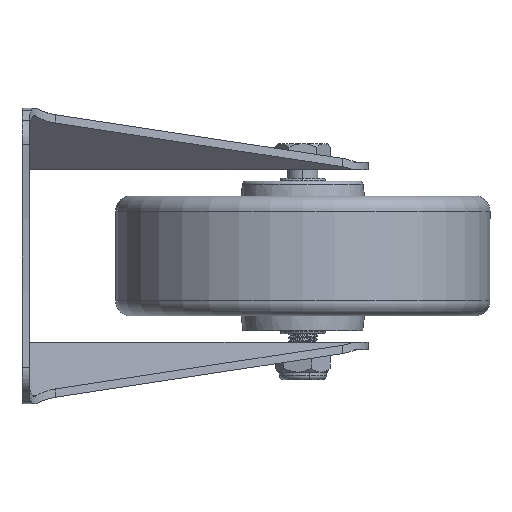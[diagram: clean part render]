
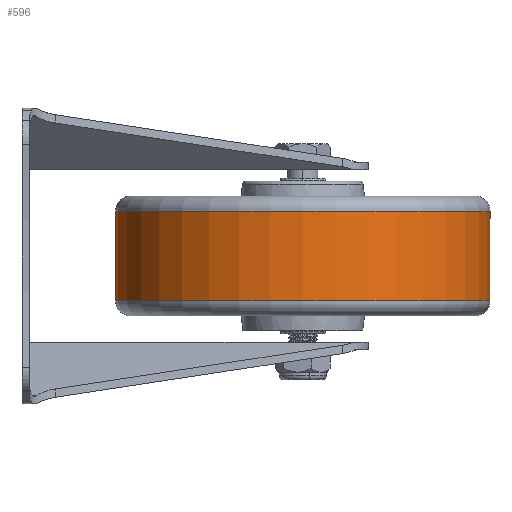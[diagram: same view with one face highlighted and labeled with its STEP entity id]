
A CAD part, left-side view. The second image highlights one B-rep face of the part: STEP entity #596.
In plain terms, the highlighted cylindrical face has radius 50 mm (diameter 100 mm), a partial arc.
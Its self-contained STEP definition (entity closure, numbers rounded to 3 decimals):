
#271 = FACE_OUTER_BOUND ( 'NONE', #21801, .T. ) ;
#596 = ADVANCED_FACE ( 'NONE', ( #271 ), #10636, .T. ) ;
#1302 = AXIS2_PLACEMENT_3D ( 'NONE', #15115, #14786, #18163 ) ;
#2631 = ORIENTED_EDGE ( 'NONE', *, *, #7807, .T. ) ;
#2756 = CARTESIAN_POINT ( 'NONE',  ( 0., 12., -50. ) ) ;
#3196 = DIRECTION ( 'NONE',  ( 0., -1., 0. ) ) ;
#5029 = CARTESIAN_POINT ( 'NONE',  ( 0., 12., 50. ) ) ;
#5689 = AXIS2_PLACEMENT_3D ( 'NONE', #8962, #7281, #19307 ) ;
#5783 = VECTOR ( 'NONE', #7806, 1000. ) ;
#6297 = ORIENTED_EDGE ( 'NONE', *, *, #13439, .F. ) ;
#6767 = EDGE_CURVE ( 'NONE', #17031, #17820, #7259, .T. ) ;
#7259 = CIRCLE ( 'NONE', #15158, 50. ) ;
#7281 = DIRECTION ( 'NONE',  ( 0., -1., 0. ) ) ;
#7401 = LINE ( 'NONE', #21114, #20136 ) ;
#7806 = DIRECTION ( 'NONE',  ( 0., -1., 0. ) ) ;
#7807 = EDGE_CURVE ( 'NONE', #17820, #14913, #7401, .T. ) ;
#8962 = CARTESIAN_POINT ( 'NONE',  ( 0., 0., 0. ) ) ;
#9611 = LINE ( 'NONE', #14898, #5783 ) ;
#10221 = CARTESIAN_POINT ( 'NONE',  ( 0., -12., 50. ) ) ;
#10636 = CYLINDRICAL_SURFACE ( 'NONE', #5689, 50. ) ;
#11000 = CIRCLE ( 'NONE', #1302, 50. ) ;
#11366 = ORIENTED_EDGE ( 'NONE', *, *, #6767, .T. ) ;
#11730 = CARTESIAN_POINT ( 'NONE',  ( 0., 12., 0. ) ) ;
#13439 = EDGE_CURVE ( 'NONE', #16567, #14913, #11000, .T. ) ;
#14037 = DIRECTION ( 'NONE',  ( 0., -1., 0. ) ) ;
#14786 = DIRECTION ( 'NONE',  ( 0., -1., 0. ) ) ;
#14898 = CARTESIAN_POINT ( 'NONE',  ( 0., 0., 50. ) ) ;
#14913 = VERTEX_POINT ( 'NONE', #16786 ) ;
#15115 = CARTESIAN_POINT ( 'NONE',  ( 0., -12., 0. ) ) ;
#15158 = AXIS2_PLACEMENT_3D ( 'NONE', #11730, #3196, #18171 ) ;
#16235 = ORIENTED_EDGE ( 'NONE', *, *, #21790, .F. ) ;
#16567 = VERTEX_POINT ( 'NONE', #10221 ) ;
#16786 = CARTESIAN_POINT ( 'NONE',  ( 0., -12., -50. ) ) ;
#17031 = VERTEX_POINT ( 'NONE', #5029 ) ;
#17820 = VERTEX_POINT ( 'NONE', #2756 ) ;
#18163 = DIRECTION ( 'NONE',  ( 0., 0., -1. ) ) ;
#18171 = DIRECTION ( 'NONE',  ( 0., 0., -1. ) ) ;
#19307 = DIRECTION ( 'NONE',  ( 0., 0., -1. ) ) ;
#20136 = VECTOR ( 'NONE', #14037, 1000. ) ;
#21114 = CARTESIAN_POINT ( 'NONE',  ( 0., 0., -50. ) ) ;
#21790 = EDGE_CURVE ( 'NONE', #17031, #16567, #9611, .T. ) ;
#21801 = EDGE_LOOP ( 'NONE', ( #16235, #11366, #2631, #6297 ) ) ;
